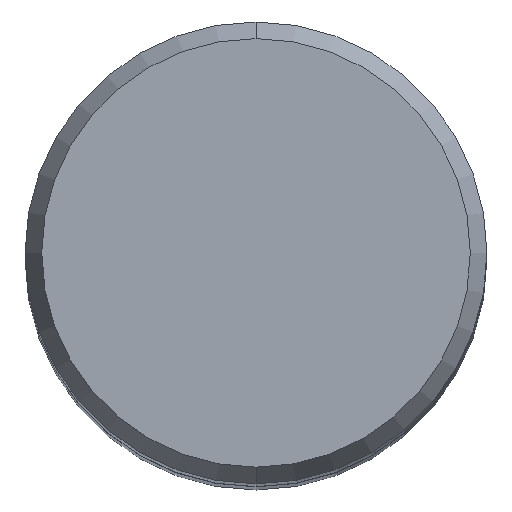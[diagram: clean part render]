
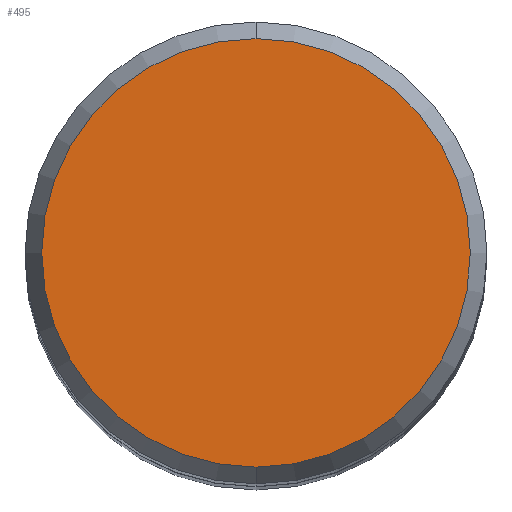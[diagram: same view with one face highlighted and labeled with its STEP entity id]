
A CAD part, top view. The second image highlights one B-rep face of the part: STEP entity #495.
In plain terms, the highlighted planar face has unit normal (0, 0, 1).
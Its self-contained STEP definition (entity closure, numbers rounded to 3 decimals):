
#419=EDGE_CURVE('',#545,#427,#859,.T.);
#427=VERTEX_POINT('',#867);
#495=ADVANCED_FACE('',(#948),#949,.T.);
#535=EDGE_CURVE('',#427,#545,#993,.T.);
#545=VERTEX_POINT('',#1003);
#859=CIRCLE('',#1469,7.423);
#867=CARTESIAN_POINT('',(0.0,7.423,0.0));
#948=FACE_OUTER_BOUND('',#1692,.T.);
#949=PLANE('',#1693);
#993=CIRCLE('',#1752,7.423);
#1003=CARTESIAN_POINT('',(0.,-7.423,0.0));
#1469=AXIS2_PLACEMENT_3D('',#2218,#2219,#2220);
#1692=EDGE_LOOP('',(#2331,#2332));
#1693=AXIS2_PLACEMENT_3D('',#2333,#2334,#2335);
#1752=AXIS2_PLACEMENT_3D('',#2370,#2371,#2372);
#2218=CARTESIAN_POINT('',(0.0,0.0,0.0));
#2219=DIRECTION('',(0.0,0.0,-1.0));
#2220=DIRECTION('',(0.0,1.0,0.0));
#2331=ORIENTED_EDGE('',*,*,#535,.F.);
#2332=ORIENTED_EDGE('',*,*,#419,.F.);
#2333=CARTESIAN_POINT('',(0.0,3.711,0.0));
#2334=DIRECTION('',(-0.0,0.0,1.0));
#2335=DIRECTION('',(0.0,-1.0,0.0));
#2370=CARTESIAN_POINT('',(0.0,0.0,0.0));
#2371=DIRECTION('',(0.0,0.0,-1.0));
#2372=DIRECTION('',(0.0,1.0,0.0));
